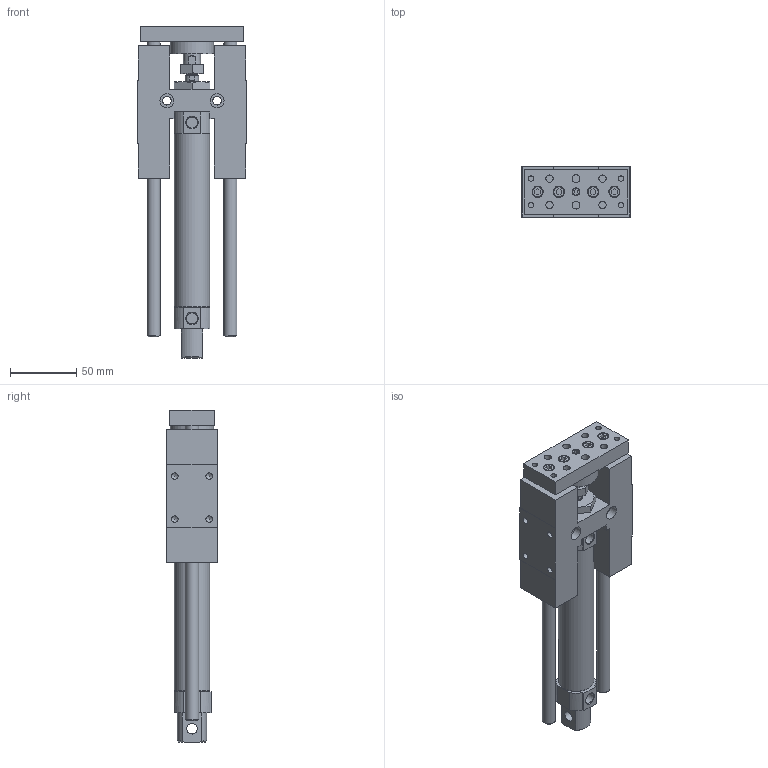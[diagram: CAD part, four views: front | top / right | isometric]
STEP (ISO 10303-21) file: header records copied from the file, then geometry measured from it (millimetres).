
FILE_DESCRIPTION((''),'2;1');
FILE_NAME('I:\3D電子目錄\氣缸\GHB(U)\GHB(U)\GHB(U)25\GHB(U)25x100.stp','2007-10-22T16:50:16',('Administrator'),(''),'Autodesk Inventor 11','Autodesk Inventor 11','');
FILE_SCHEMA(('AUTOMOTIVE_DESIGN { 1 0 10303 214 1 1 1 1 }'));
Length unit declared in the file: millimetre
Products named in the file (1): GHB(U)25
Bounding box: 82 x 38 x 251 mm (x, y, z)
Volume: 361502.7 mm3; surface area: 71240.7 mm2
Topology: 1 solids, 1 shells, 230 faces, 542 edges, 352 vertices
Faces by surface type: plane 131, cylinder 38, bspline 36, cone 25
Full cylindrical faces by diameter (mm): 4.917 x4, 5 x1, 6 x5, 7.5 x4, 8 x1, 8.5 x6, 8.6 x1, 10 x3, 13 x1, 26.6 x1, 33 x1
Entity records: 6522 total; most frequent: CARTESIAN_POINT 1583, DIRECTION 974, ORIENTED_EDGE 928, EDGE_CURVE 464, EDGE_LOOP 358, AXIS2_PLACEMENT_3D 347, VERTEX_POINT 338, VECTOR 280
